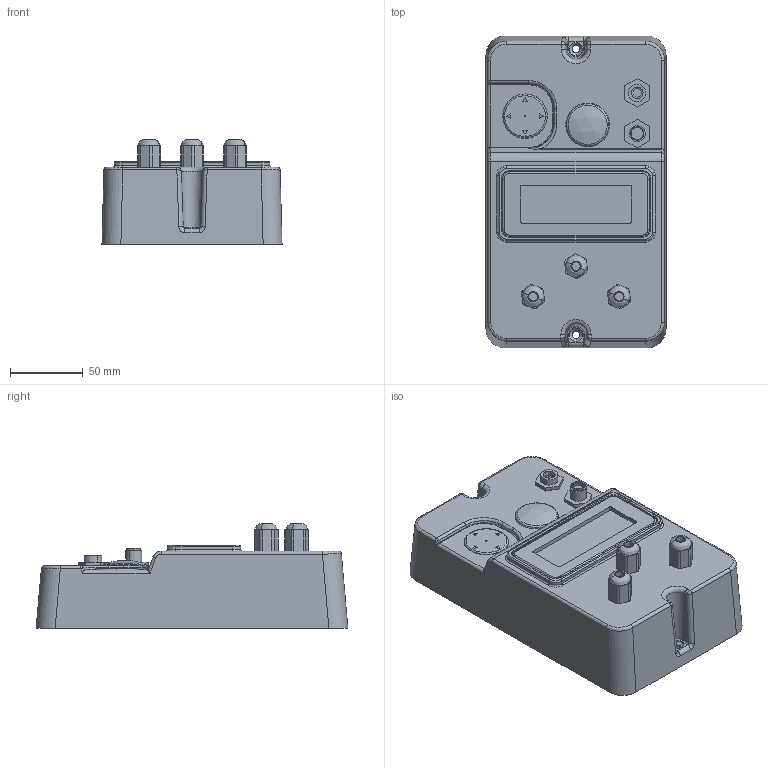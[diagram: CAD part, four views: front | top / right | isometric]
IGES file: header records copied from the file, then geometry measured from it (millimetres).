
Global section: file name: No Iges File Name specified; native system: Autodesk Inventor 2011; preprocessor: AutoDesk Inventor Iges Exporter R2011; author: Trivella; date: 20120413.112642; units: millimetre
Bounding box: 123.62 x 214.02 x 72 mm (x, y, z)
Volume: 311033.7 mm3; surface area: 243306.9 mm2
Topology: 26 solids, 26 shells, 949 faces, 2360 edges, 1466 vertices
Faces by surface type: plane 413, bspline 201, revolution 125, cylinder 124, torus 51, cone 29, sphere 6
